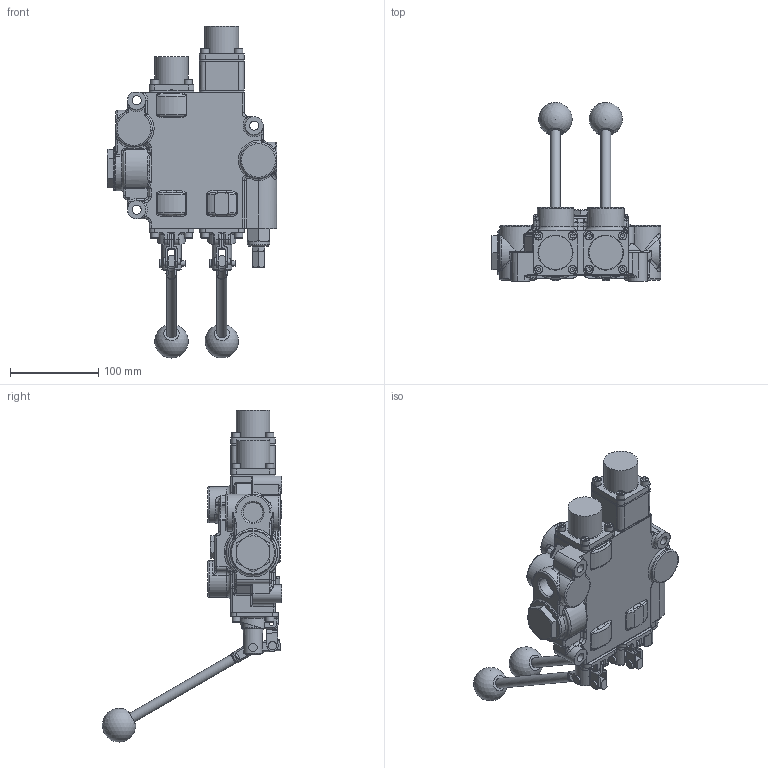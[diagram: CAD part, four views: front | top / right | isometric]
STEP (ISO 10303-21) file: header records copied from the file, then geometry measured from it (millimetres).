
FILE_DESCRIPTION((''),'2;1');
FILE_NAME('C:\Vault\Workspace\z_ShellModels\RD5000\RD522GCGA5A4B1_Shell.stp','2012-03-19T09:06:06',('PetersW'),(''),'Autodesk Inventor 2012','Autodesk Inventor 2012','');
FILE_SCHEMA(('AUTOMOTIVE_DESIGN { 1 0 10303 214 1 1 1 1 }'));
Length unit declared in the file: inch
Products named in the file (1): Part1
Bounding box: 192.21 x 203.39 x 376.63 mm (x, y, z)
Volume: 1630954.8 mm3; surface area: 230341.2 mm2
Topology: 5 solids, 38 shells, 1613 faces, 3956 edges, 2446 vertices
Faces by surface type: plane 681, cylinder 401, bspline 216, cone 152, torus 136, sphere 27
Full cylindrical faces by diameter (mm): 2.388 x4, 4.75 x1, 4.813 x4, 4.978 x16, 5.017 x4, 6.248 x4, 6.325 x4, 6.35 x20, 6.375 x4, 6.731 x28, 8.382 x2, 9.398 x2, 9.525 x20, 10.312 x3, 11.113 x2, 12.446 x2, 12.7 x2, 17.856 x4, 20.638 x2, 22.225 x4, 23.52 x2, 23.523 x2, 25.4 x6, 30.48 x1, 33.68 x2, 34.138 x1, 38.252 x2, 41.275 x5, 48.768 x1
Entity records: 57749 total; most frequent: CARTESIAN_POINT 21632, ORIENTED_EDGE 7020, DIRECTION 6806, EDGE_CURVE 3510, AXIS2_PLACEMENT_3D 2649, VERTEX_POINT 2307, EDGE_LOOP 2019, STYLED_ITEM 1618
